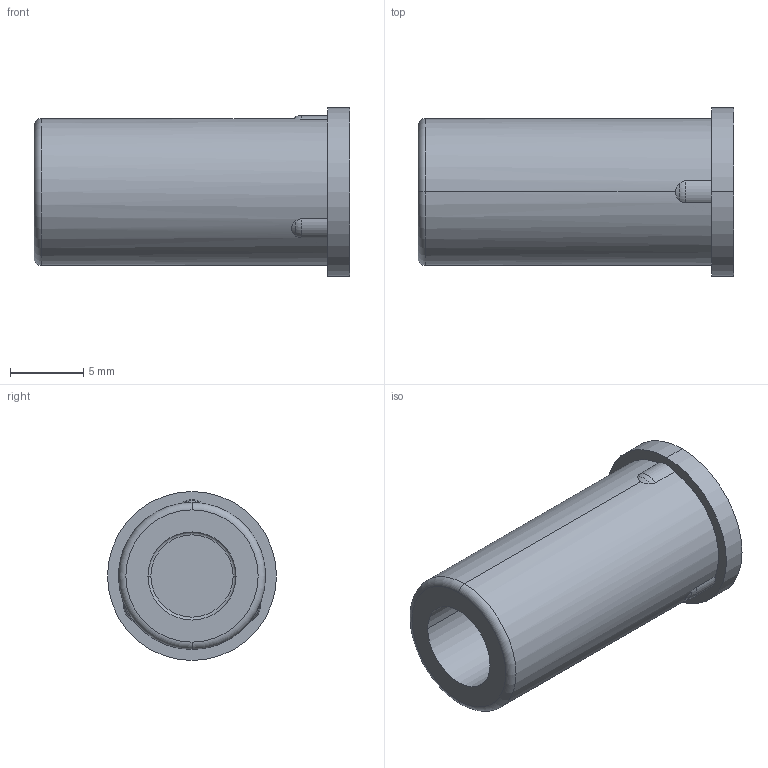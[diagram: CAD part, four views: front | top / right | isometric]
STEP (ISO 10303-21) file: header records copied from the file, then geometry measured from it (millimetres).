
FILE_DESCRIPTION(('Creo Elements/Direct Modeling STEP Export'),'2;1');
FILE_NAME('H20-0024-CL901-00_BB-100S.stp','2021-09-07T10:44:56',(''),(''),'Creo Elements/Direct Modeling STEP processor for AP214 (Solid Model)','Creo Elements/Direct Modeling 20.3B 05-Dec-2020 (C) Parametric Technology GmbH','');
FILE_SCHEMA(('AUTOMOTIVE_DESIGN { 1 0 10303 214 1 1 1 1 }'));
Length unit declared in the file: millimetre
Products named in the file (2): BB-100S
Assembly tree (1 placements, depth 2):
  BB-100S
    BB-100S
Bounding box: 21.5 x 11.5 x 11.5 mm (x, y, z)
Volume: 1161 mm3; surface area: 1258.9 mm2
Topology: 1 solids, 1 shells, 26 faces, 100 edges, 81 vertices
Faces by surface type: cylinder 9, plane 7, torus 7, cone 3
Entity records: 1238 total; most frequent: CARTESIAN_POINT 341, ORIENTED_EDGE 200, DIRECTION 153, EDGE_CURVE 100, VERTEX_POINT 81, VECTOR 59, LINE 59, AXIS2_PLACEMENT_3D 47
